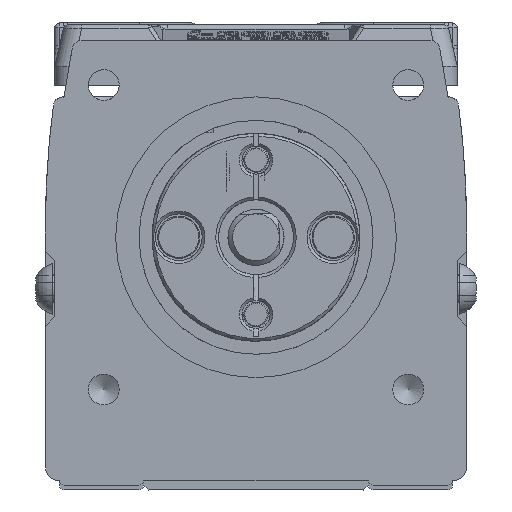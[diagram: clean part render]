
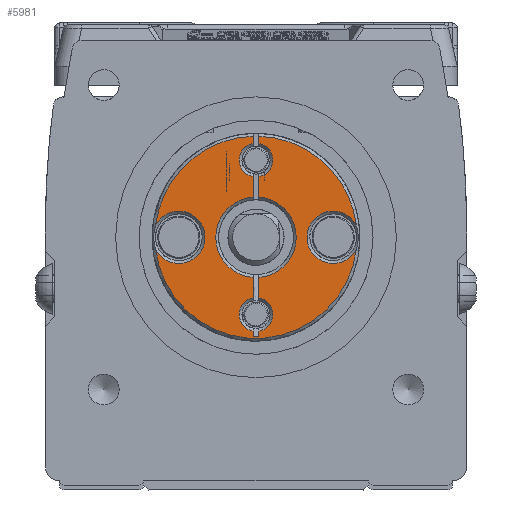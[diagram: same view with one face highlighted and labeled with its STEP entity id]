
A CAD part, left-side view. The second image highlights one B-rep face of the part: STEP entity #5981.
In plain terms, the highlighted planar face has unit normal (-1, 0, 0) as drawn and (1, 0, 0) by its records, which use the part's own axes.
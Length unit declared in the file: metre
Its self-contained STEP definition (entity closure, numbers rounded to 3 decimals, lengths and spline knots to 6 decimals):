
#5981=ADVANCED_FACE('',(#11877),#11878,.F.);
#11877=FACE_OUTER_BOUND('',#20349,.T.);
#11878=PLANE('',#20350);
#20349=EDGE_LOOP('',(#34264,#34265,#34266,#34267,#34268,#34269,#34270,#34271,#34272,#34273,#34274,#34275,#34276,#34277,#34278,#34279,#34280,#34281,#34282,#34283));
#20350=AXIS2_PLACEMENT_3D('',#34284,#34285,#34286);
#34264=ORIENTED_EDGE('',*,*,#39843,.F.);
#34265=ORIENTED_EDGE('',*,*,#40214,.T.);
#34266=ORIENTED_EDGE('',*,*,#42604,.F.);
#34267=ORIENTED_EDGE('',*,*,#43554,.F.);
#34268=ORIENTED_EDGE('',*,*,#43555,.T.);
#34269=ORIENTED_EDGE('',*,*,#43290,.T.);
#34270=ORIENTED_EDGE('',*,*,#42248,.F.);
#34271=ORIENTED_EDGE('',*,*,#38941,.F.);
#34272=ORIENTED_EDGE('',*,*,#43073,.F.);
#34273=ORIENTED_EDGE('',*,*,#41382,.T.);
#34274=ORIENTED_EDGE('',*,*,#42903,.F.);
#34275=ORIENTED_EDGE('',*,*,#39078,.F.);
#34276=ORIENTED_EDGE('',*,*,#43556,.F.);
#34277=ORIENTED_EDGE('',*,*,#39694,.F.);
#34278=ORIENTED_EDGE('',*,*,#43557,.F.);
#34279=ORIENTED_EDGE('',*,*,#39692,.F.);
#34280=ORIENTED_EDGE('',*,*,#38869,.F.);
#34281=ORIENTED_EDGE('',*,*,#39691,.F.);
#34282=ORIENTED_EDGE('',*,*,#40729,.T.);
#34283=ORIENTED_EDGE('',*,*,#43558,.F.);
#34284=CARTESIAN_POINT('',(0.0,0.0,0.));
#34285=DIRECTION('',(-1.0,0.,0.0));
#34286=DIRECTION('',(0.,-1.0,0.0));
#38869=EDGE_CURVE('',#45331,#45332,#45333,.T.);
#38941=EDGE_CURVE('',#45462,#45463,#45464,.T.);
#39078=EDGE_CURVE('',#45703,#45704,#45705,.T.);
#39691=EDGE_CURVE('',#46752,#45331,#46754,.T.);
#39692=EDGE_CURVE('',#45332,#46755,#46756,.T.);
#39694=EDGE_CURVE('',#46757,#46759,#46760,.T.);
#39843=EDGE_CURVE('',#47004,#47006,#47007,.F.);
#40214=EDGE_CURVE('',#47004,#47619,#47621,.T.);
#40729=EDGE_CURVE('',#46752,#48424,#48426,.F.);
#41382=EDGE_CURVE('',#49433,#49437,#49439,.T.);
#42248=EDGE_CURVE('',#45463,#50681,#50682,.F.);
#42604=EDGE_CURVE('',#51156,#47619,#51157,.F.);
#42903=EDGE_CURVE('',#45704,#49437,#51546,.F.);
#43073=EDGE_CURVE('',#49433,#45462,#51775,.T.);
#43290=EDGE_CURVE('',#52040,#50681,#52041,.T.);
#43554=EDGE_CURVE('',#52356,#51156,#52357,.T.);
#43555=EDGE_CURVE('',#52356,#52040,#52358,.F.);
#43556=EDGE_CURVE('',#46759,#45703,#52359,.T.);
#43557=EDGE_CURVE('',#46755,#46757,#52360,.T.);
#43558=EDGE_CURVE('',#47006,#48424,#52361,.T.);
#45331=VERTEX_POINT('',#54875);
#45332=VERTEX_POINT('',#54876);
#45333=CIRCLE('',#54877,0.0028);
#45462=VERTEX_POINT('',#55050);
#45463=VERTEX_POINT('',#55051);
#45464=CIRCLE('',#55052,0.0018);
#45703=VERTEX_POINT('',#55443);
#45704=VERTEX_POINT('',#55444);
#45705=CIRCLE('',#55445,0.0018);
#46752=VERTEX_POINT('',#56944);
#46754=CIRCLE('',#56949,0.0108);
#46755=VERTEX_POINT('',#56950);
#46756=CIRCLE('',#56951,0.0108);
#46757=VERTEX_POINT('',#56952);
#46759=VERTEX_POINT('',#56959);
#46760=CIRCLE('',#56960,0.0108);
#47004=VERTEX_POINT('',#57332);
#47006=VERTEX_POINT('',#57337);
#47007=LINE('',#57338,#57339);
#47619=VERTEX_POINT('',#58159);
#47621=CIRCLE('',#58164,0.0043);
#48424=VERTEX_POINT('',#59469);
#48426=LINE('',#59474,#59475);
#49433=VERTEX_POINT('',#61200);
#49437=VERTEX_POINT('',#61207);
#49439=CIRCLE('',#61212,0.0043);
#50681=VERTEX_POINT('',#63032);
#50682=LINE('',#63033,#63034);
#51156=VERTEX_POINT('',#63753);
#51157=LINE('',#63754,#63755);
#51546=LINE('',#64376,#64377);
#51775=LINE('',#64686,#64687);
#52040=VERTEX_POINT('',#65045);
#52041=LINE('',#65046,#65047);
#52356=VERTEX_POINT('',#65482);
#52357=CIRCLE('',#65483,0.0018);
#52358=LINE('',#65484,#65485);
#52359=LINE('',#65486,#65487);
#52360=CIRCLE('',#65488,0.0028);
#52361=CIRCLE('',#65489,0.0018);
#54875=CARTESIAN_POINT('',(0.,0.001321,-0.010719));
#54876=CARTESIAN_POINT('',(0.,-0.001321,-0.010719));
#54877=AXIS2_PLACEMENT_3D('',#67504,#67505,#67506);
#55050=CARTESIAN_POINT('',(0.,-0.006475,0.0003));
#55051=CARTESIAN_POINT('',(0.,-0.010025,0.0003));
#55052=AXIS2_PLACEMENT_3D('',#67615,#67616,#67617);
#55443=CARTESIAN_POINT('',(0.,0.010025,0.0003));
#55444=CARTESIAN_POINT('',(0.0,0.006475,0.0003));
#55445=AXIS2_PLACEMENT_3D('',#67775,#67776,#67777);
#56944=CARTESIAN_POINT('',(0.,0.010796,-0.0003));
#56949=AXIS2_PLACEMENT_3D('',#68588,#68589,#68590);
#56950=CARTESIAN_POINT('',(0.,-0.001321,0.010719));
#56951=AXIS2_PLACEMENT_3D('',#68591,#68592,#68593);
#56952=CARTESIAN_POINT('',(0.,0.001321,0.010719));
#56959=CARTESIAN_POINT('',(0.,0.010796,0.0003));
#56960=AXIS2_PLACEMENT_3D('',#68594,#68595,#68596);
#57332=CARTESIAN_POINT('',(0.,0.00429,-0.0003));
#57337=CARTESIAN_POINT('',(0.,0.006475,-0.0003));
#57338=CARTESIAN_POINT('',(0.0,0.0,-0.0003));
#57339=VECTOR('',#68764,1.0);
#58159=CARTESIAN_POINT('',(0.,-0.00429,-0.0003));
#58164=AXIS2_PLACEMENT_3D('',#69238,#69239,#69240);
#59469=CARTESIAN_POINT('',(0.,0.010025,-0.0003));
#59474=CARTESIAN_POINT('',(0.0,0.0025,-0.0003));
#59475=VECTOR('',#69856,1.0);
#61200=CARTESIAN_POINT('',(0.,-0.00429,0.0003));
#61207=CARTESIAN_POINT('',(0.0,0.00429,0.0003));
#61212=AXIS2_PLACEMENT_3D('',#70630,#70631,#70632);
#63032=CARTESIAN_POINT('',(0.,-0.010642,0.0003));
#63033=CARTESIAN_POINT('',(0.0,0.0025,0.0003));
#63034=VECTOR('',#71667,1.0);
#63753=CARTESIAN_POINT('',(0.,-0.006475,-0.0003));
#63754=CARTESIAN_POINT('',(0.0,0.0,-0.0003));
#63755=VECTOR('',#72064,1.0);
#64376=CARTESIAN_POINT('',(0.0,0.0025,0.0003));
#64377=VECTOR('',#72360,1.0);
#64686=CARTESIAN_POINT('',(0.0,0.0,0.0003));
#64687=VECTOR('',#72597,1.0);
#65045=CARTESIAN_POINT('',(0.,-0.010642,-0.0003));
#65046=CARTESIAN_POINT('',(0.,-0.010642,0.0003));
#65047=VECTOR('',#72811,1.0);
#65482=CARTESIAN_POINT('',(0.,-0.010025,-0.0003));
#65483=AXIS2_PLACEMENT_3D('',#73088,#73089,#73090);
#65484=CARTESIAN_POINT('',(0.0,0.0025,-0.0003));
#65485=VECTOR('',#73091,1.0);
#65486=CARTESIAN_POINT('',(0.0,0.0,0.0003));
#65487=VECTOR('',#73092,1.0);
#65488=AXIS2_PLACEMENT_3D('',#73093,#73094,#73095);
#65489=AXIS2_PLACEMENT_3D('',#73096,#73097,#73098);
#67504=CARTESIAN_POINT('',(0.,0.,-0.00825));
#67505=DIRECTION('',(1.0,0.,0.0));
#67506=DIRECTION('',(0.,1.0,0.0));
#67615=CARTESIAN_POINT('',(0.0,-0.00825,0.));
#67616=DIRECTION('',(1.0,0.0,0.0));
#67617=DIRECTION('',(0.0,0.0,-1.0));
#67775=CARTESIAN_POINT('',(0.0,0.00825,0.));
#67776=DIRECTION('',(1.0,0.0,0.0));
#67777=DIRECTION('',(0.0,0.0,-1.0));
#68588=CARTESIAN_POINT('',(0.,0.0,0.));
#68589=DIRECTION('',(-1.0,0.0,0.0));
#68590=DIRECTION('',(0.0,0.0,1.0));
#68591=CARTESIAN_POINT('',(0.,0.0,0.));
#68592=DIRECTION('',(-1.0,0.0,0.0));
#68593=DIRECTION('',(0.0,0.0,1.0));
#68594=CARTESIAN_POINT('',(0.,0.0,0.));
#68595=DIRECTION('',(-1.0,0.0,0.0));
#68596=DIRECTION('',(0.0,0.0,1.0));
#68764=DIRECTION('',(0.,-1.0,0.0));
#69238=CARTESIAN_POINT('',(0.,0.,0.));
#69239=DIRECTION('',(-1.0,0.,0.0));
#69240=DIRECTION('',(0.,-1.0,0.0));
#69856=DIRECTION('',(0.0,1.0,0.0));
#70630=CARTESIAN_POINT('',(0.,0.,0.));
#70631=DIRECTION('',(-1.0,0.,0.0));
#70632=DIRECTION('',(0.,-1.0,0.0));
#71667=DIRECTION('',(0.0,1.0,0.0));
#72064=DIRECTION('',(0.,-1.0,0.0));
#72360=DIRECTION('',(0.0,1.0,0.0));
#72597=DIRECTION('',(0.,-1.0,0.0));
#72811=DIRECTION('',(0.0,0.0,1.0));
#73088=CARTESIAN_POINT('',(0.0,-0.00825,0.));
#73089=DIRECTION('',(1.0,0.0,0.0));
#73090=DIRECTION('',(0.0,0.0,-1.0));
#73091=DIRECTION('',(0.0,1.0,0.0));
#73092=DIRECTION('',(0.,-1.0,0.0));
#73093=CARTESIAN_POINT('',(0.0,0.,0.00825));
#73094=DIRECTION('',(1.0,0.,0.0));
#73095=DIRECTION('',(0.,1.0,0.0));
#73096=CARTESIAN_POINT('',(0.0,0.00825,0.));
#73097=DIRECTION('',(1.0,0.0,0.0));
#73098=DIRECTION('',(0.0,0.0,-1.0));
